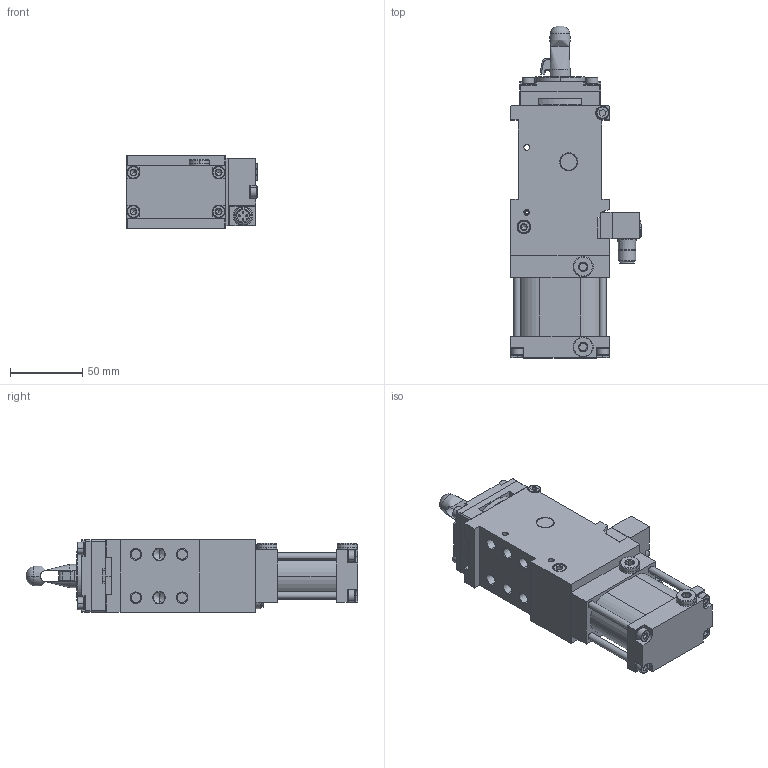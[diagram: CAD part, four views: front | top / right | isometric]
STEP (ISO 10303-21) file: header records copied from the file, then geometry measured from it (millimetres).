
FILE_DESCRIPTION (( 'STEP AP203' ), '1' );
FILE_NAME ('dca40gi_08612nt3.STEP', '2018-05-17T06:46:57', ( '' ), ( '' ), 'SwSTEP 2.0', 'SolidWorks 2018', '' );
FILE_SCHEMA (( 'CONFIG_CONTROL_DESIGN' ));
Length unit declared in the file: millimetre
Products named in the file (1): dca40gi_08612nt3
Bounding box: 90.09 x 229.55 x 50.02 mm (x, y, z)
Volume: 407079.8 mm3; surface area: 147367.7 mm2
Topology: 45 solids, 45 shells, 2093 faces, 5322 edges, 3349 vertices
Faces by surface type: plane 970, cylinder 669, cone 356, torus 96, bspline 2
Entity records: 64314 total; most frequent: CARTESIAN_POINT 13864, ORIENTED_EDGE 10532, DIRECTION 10527, EDGE_CURVE 5266, AXIS2_PLACEMENT_3D 3948, VERTEX_POINT 3349, VECTOR 2631, LINE 2631
